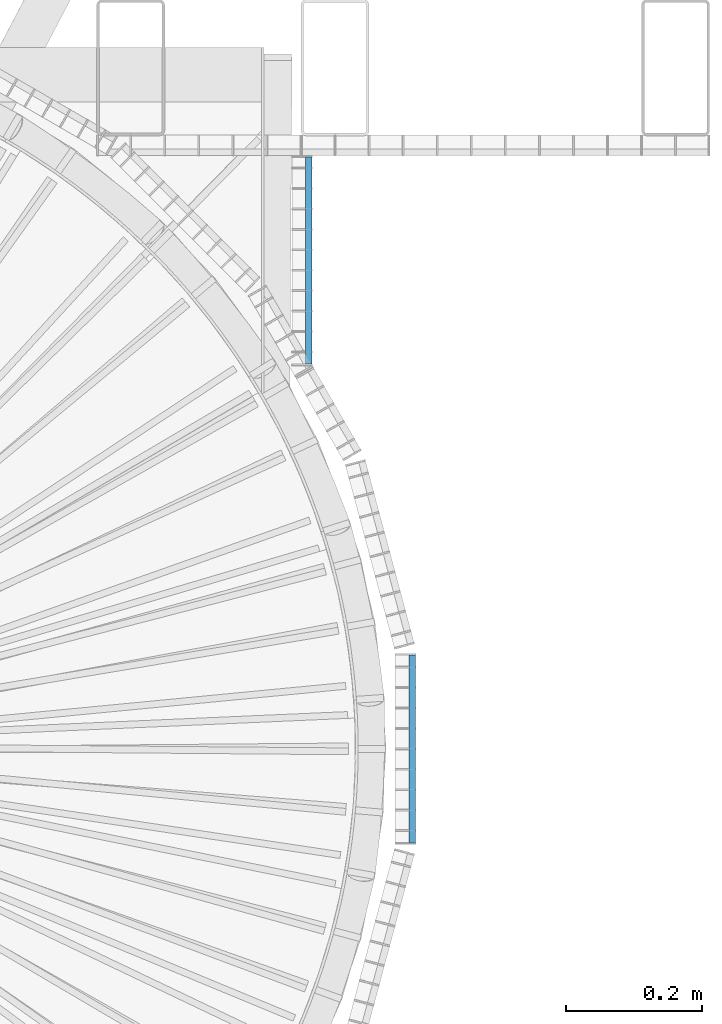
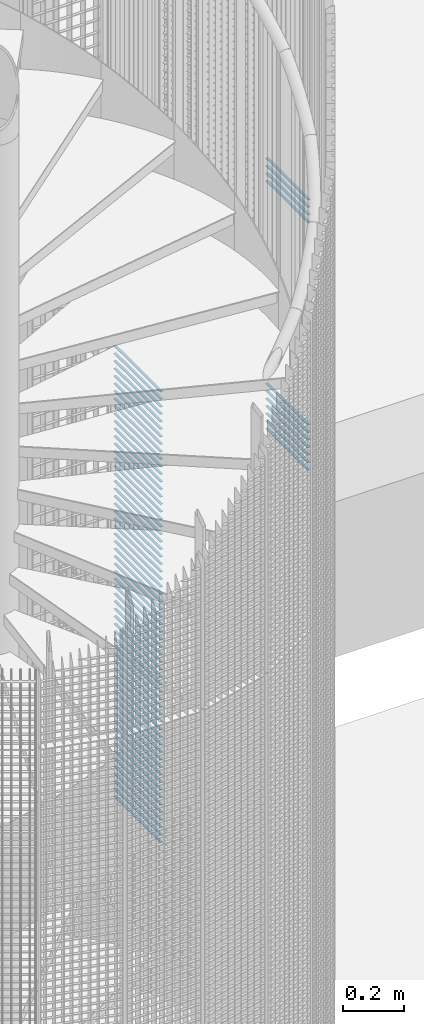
# One storey, part 273 of 1148: 72 beams, 2 elements without a shape of their own.
"""IFC2X3 building model written with IfcOpenShell, lengths in millimetres."""

from ifc_helpers import new_model, si_unit, frame, origin_with_axes, origin_2d_with_axis, place, context, subcontext, project, spatial, rectangle, extrude, material, type_object, element, aggregate, save


model = new_model("IFC2X3")

# Units and contexts
model_context = context("Model", 3, precision=1e-05, world=origin_with_axes())
body_context = subcontext(model_context, "Body", "Model", "MODEL_VIEW")
ifc_project = project(units=[si_unit("LENGTHUNIT", "METRE", prefix="MILLI"), si_unit("AREAUNIT", "SQUARE_METRE"), si_unit("VOLUMEUNIT", "CUBIC_METRE"), si_unit("MASSUNIT", "GRAM", prefix="KILO"), si_unit("TIMEUNIT", "SECOND"), si_unit("PLANEANGLEUNIT", "RADIAN"), si_unit("SOLIDANGLEUNIT", "STERADIAN"), si_unit("THERMODYNAMICTEMPERATUREUNIT", "DEGREE_CELSIUS"), si_unit("LUMINOUSINTENSITYUNIT", "LUMEN")], contexts=[model_context])

# Site, building, storey
site_placement = place(None, origin_with_axes())
site = spatial("IfcSite", under=ifc_project, at=site_placement, Name="Undefined", CompositionType="ELEMENT")
building_placement = place(site_placement, origin_with_axes())
building = spatial("IfcBuilding", under=site, at=building_placement, Name="Undefined", CompositionType="ELEMENT")
storey_placement = place(building_placement, origin_with_axes())
storey = spatial("IfcBuildingStorey", under=building, at=storey_placement, Name="Undefined", CompositionType="ELEMENT", Elevation=0.0)

# Assembly, beams
assembly_1_placement = place(storey_placement, origin_with_axes())
assembly_1 = element("IfcElementAssembly", 1, at=assembly_1_placement, inside=storey, Name="BORDURE", AssemblyPlace="NOTDEFINED", PredefinedType="NOTDEFINED")
ifc_material = material(Name="STEEL/S235JR")
beam_type = type_object("IfcBeamType", Name="PL2*10", PredefinedType="NOTDEFINED")
beam_1_placement = place(assembly_1_placement, frame((1113.47999999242, -137.996003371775, 13020.0), z_axis=(1.0, 0.0, 0.0), x_axis=(0.0, 1.0, 0.0)))
beam_1 = element("IfcBeam", 2, at=beam_1_placement, type_object=beam_type, material=ifc_material, Name="ENTRETOISE", context=body_context, shape_type="SweptSolid", body=[
    extrude(rectangle(XDim=2.0, YDim=10.0, at=origin_2d_with_axis()), frame((275.999999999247, 9.09494701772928e-13, 1.53210777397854e-14), z_axis=(-1.0, 0.0, 0.0), x_axis=(0.0, -1.0, 0.0)), (0.0, 0.0, 1.0), 276.0),
])
beam_2_placement = place(assembly_1_placement, frame((1113.47999999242, -137.996003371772, 12210.0), z_axis=(1.0, 0.0, 0.0), x_axis=(0.0, 1.0, 0.0)))
beam_2 = element("IfcBeam", 3, at=beam_2_placement, type_object=beam_type, material=ifc_material, Name="ENTRETOISE", context=body_context, shape_type="SweptSolid", body=[
    extrude(rectangle(XDim=2.0, YDim=10.0, at=origin_2d_with_axis()), frame((275.999999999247, 9.09494701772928e-13, 1.53210777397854e-14), z_axis=(-1.0, 0.0, 0.0), x_axis=(0.0, -1.0, 0.0)), (0.0, 0.0, 1.0), 276.0),
])
beam_3_placement = place(assembly_1_placement, frame((1113.47999999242, -137.996003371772, 12180.0), z_axis=(1.0, 0.0, 0.0), x_axis=(0.0, 1.0, 0.0)))
beam_3 = element("IfcBeam", 4, at=beam_3_placement, type_object=beam_type, material=ifc_material, Name="ENTRETOISE", context=body_context, shape_type="SweptSolid", body=[
    extrude(rectangle(XDim=2.0, YDim=10.0, at=origin_2d_with_axis()), frame((275.999999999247, 9.09494701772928e-13, 1.53210777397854e-14), z_axis=(-1.0, 0.0, 0.0), x_axis=(0.0, -1.0, 0.0)), (0.0, 0.0, 1.0), 276.0),
])
beam_4_placement = place(assembly_1_placement, frame((1113.47999999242, -137.996003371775, 13050.0), z_axis=(1.0, 0.0, 0.0), x_axis=(0.0, 1.0, 0.0)))
beam_4 = element("IfcBeam", 5, at=beam_4_placement, type_object=beam_type, material=ifc_material, Name="ENTRETOISE", context=body_context, shape_type="SweptSolid", body=[
    extrude(rectangle(XDim=2.0, YDim=10.0, at=origin_2d_with_axis()), frame((275.999999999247, 9.09494701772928e-13, 1.53210777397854e-14), z_axis=(-1.0, 0.0, 0.0), x_axis=(0.0, -1.0, 0.0)), (0.0, 0.0, 1.0), 276.0),
])
beam_5_placement = place(assembly_1_placement, frame((1113.47999999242, -137.996003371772, 12150.0), z_axis=(1.0, 0.0, 0.0), x_axis=(0.0, 1.0, 0.0)))
beam_5 = element("IfcBeam", 6, at=beam_5_placement, type_object=beam_type, material=ifc_material, Name="ENTRETOISE", context=body_context, shape_type="SweptSolid", body=[
    extrude(rectangle(XDim=2.0, YDim=10.0, at=origin_2d_with_axis()), frame((275.999999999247, 9.09494701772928e-13, 1.53210777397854e-14), z_axis=(-1.0, 0.0, 0.0), x_axis=(0.0, -1.0, 0.0)), (0.0, 0.0, 1.0), 276.0),
])
beam_6_placement = place(assembly_1_placement, frame((1113.47999999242, -137.996003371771, 12120.0), z_axis=(1.0, 0.0, 0.0), x_axis=(0.0, 1.0, 0.0)))
beam_6 = element("IfcBeam", 7, at=beam_6_placement, type_object=beam_type, material=ifc_material, Name="ENTRETOISE", context=body_context, shape_type="SweptSolid", body=[
    extrude(rectangle(XDim=2.0, YDim=10.0, at=origin_2d_with_axis()), frame((275.999999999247, 9.09494701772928e-13, 1.53210777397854e-14), z_axis=(-1.0, 0.0, 0.0), x_axis=(0.0, -1.0, 0.0)), (0.0, 0.0, 1.0), 276.0),
])
beam_7_placement = place(assembly_1_placement, frame((1113.47999999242, -137.996003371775, 13080.0), z_axis=(1.0, 0.0, 0.0), x_axis=(0.0, 1.0, 0.0)))
beam_7 = element("IfcBeam", 8, at=beam_7_placement, type_object=beam_type, material=ifc_material, Name="ENTRETOISE", context=body_context, shape_type="SweptSolid", body=[
    extrude(rectangle(XDim=2.0, YDim=10.0, at=origin_2d_with_axis()), frame((275.999999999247, 9.09494701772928e-13, 1.53210777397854e-14), z_axis=(-1.0, 0.0, 0.0), x_axis=(0.0, -1.0, 0.0)), (0.0, 0.0, 1.0), 276.0),
])
beam_8_placement = place(assembly_1_placement, frame((1113.47999999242, -137.996003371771, 12090.0), z_axis=(1.0, 0.0, 0.0), x_axis=(0.0, 1.0, 0.0)))
beam_8 = element("IfcBeam", 9, at=beam_8_placement, type_object=beam_type, material=ifc_material, Name="ENTRETOISE", context=body_context, shape_type="SweptSolid", body=[
    extrude(rectangle(XDim=2.0, YDim=10.0, at=origin_2d_with_axis()), frame((275.999999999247, 9.09494701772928e-13, 1.53210777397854e-14), z_axis=(-1.0, 0.0, 0.0), x_axis=(0.0, -1.0, 0.0)), (0.0, 0.0, 1.0), 276.0),
])
beam_9_placement = place(assembly_1_placement, frame((1113.47999999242, -137.996003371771, 12060.0), z_axis=(1.0, 0.0, 0.0), x_axis=(0.0, 1.0, 0.0)))
beam_9 = element("IfcBeam", 10, at=beam_9_placement, type_object=beam_type, material=ifc_material, Name="ENTRETOISE", context=body_context, shape_type="SweptSolid", body=[
    extrude(rectangle(XDim=2.0, YDim=10.0, at=origin_2d_with_axis()), frame((275.999999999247, 9.09494701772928e-13, 1.53210777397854e-14), z_axis=(-1.0, 0.0, 0.0), x_axis=(0.0, -1.0, 0.0)), (0.0, 0.0, 1.0), 276.0),
])
beam_10_placement = place(assembly_1_placement, frame((1113.47999999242, -137.996003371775, 13110.0), z_axis=(1.0, 0.0, 0.0), x_axis=(0.0, 1.0, 0.0)))
beam_10 = element("IfcBeam", 11, at=beam_10_placement, type_object=beam_type, material=ifc_material, Name="ENTRETOISE", context=body_context, shape_type="SweptSolid", body=[
    extrude(rectangle(XDim=2.0, YDim=10.0, at=origin_2d_with_axis()), frame((275.999999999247, 9.09494701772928e-13, 1.53210777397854e-14), z_axis=(-1.0, 0.0, 0.0), x_axis=(0.0, -1.0, 0.0)), (0.0, 0.0, 1.0), 276.0),
])
beam_11_placement = place(assembly_1_placement, frame((1113.47999999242, -137.99600337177, 12030.0), z_axis=(1.0, 0.0, 0.0), x_axis=(0.0, 1.0, 0.0)))
beam_11 = element("IfcBeam", 12, at=beam_11_placement, type_object=beam_type, material=ifc_material, Name="ENTRETOISE", context=body_context, shape_type="SweptSolid", body=[
    extrude(rectangle(XDim=2.0, YDim=10.0, at=origin_2d_with_axis()), frame((275.999999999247, 9.09494701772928e-13, 1.53210777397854e-14), z_axis=(-1.0, 0.0, 0.0), x_axis=(0.0, -1.0, 0.0)), (0.0, 0.0, 1.0), 276.0),
])
aggregate(assembly_1, [beam_1, beam_2, beam_3, beam_4, beam_5, beam_6, beam_7, beam_8, beam_9, beam_10, beam_11])

assembly_2_placement = place(storey_placement, origin_with_axes())
assembly_2 = element("IfcElementAssembly", 13, at=assembly_2_placement, inside=storey, Name="BORDURE", AssemblyPlace="NOTDEFINED", PredefinedType="NOTDEFINED")
beam_12_placement = place(assembly_2_placement, frame((961.586915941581, 564.78266928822, 11970.0), z_axis=(1.0, 0.0, 0.0), x_axis=(0.0, 1.0, 0.0)))
beam_12 = element("IfcBeam", 14, at=beam_12_placement, type_object=beam_type, material=ifc_material, Name="ENTRETOISE", context=body_context, shape_type="SweptSolid", body=[
    extrude(rectangle(XDim=2.0, YDim=10.0, at=origin_2d_with_axis()), frame((303.999999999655, 0.0, 0.0), z_axis=(-1.0, 0.0, 0.0), x_axis=(0.0, -1.0, 0.0)), (0.0, 0.0, 1.0), 304.0),
])
beam_13_placement = place(assembly_2_placement, frame((961.586915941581, 564.78266928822, 11940.0), z_axis=(1.0, 0.0, 0.0), x_axis=(0.0, 1.0, 0.0)))
beam_13 = element("IfcBeam", 15, at=beam_13_placement, type_object=beam_type, material=ifc_material, Name="ENTRETOISE", context=body_context, shape_type="SweptSolid", body=[
    extrude(rectangle(XDim=2.0, YDim=10.0, at=origin_2d_with_axis()), frame((303.999999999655, 0.0, 0.0), z_axis=(-1.0, 0.0, 0.0), x_axis=(0.0, -1.0, 0.0)), (0.0, 0.0, 1.0), 304.0),
])
beam_14_placement = place(assembly_2_placement, frame((961.586915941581, 564.78266928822, 11910.0), z_axis=(1.0, 0.0, 0.0), x_axis=(0.0, 1.0, 0.0)))
beam_14 = element("IfcBeam", 16, at=beam_14_placement, type_object=beam_type, material=ifc_material, Name="ENTRETOISE", context=body_context, shape_type="SweptSolid", body=[
    extrude(rectangle(XDim=2.0, YDim=10.0, at=origin_2d_with_axis()), frame((303.999999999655, 0.0, 0.0), z_axis=(-1.0, 0.0, 0.0), x_axis=(0.0, -1.0, 0.0)), (0.0, 0.0, 1.0), 304.0),
])
beam_15_placement = place(assembly_2_placement, frame((961.586915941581, 564.782669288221, 11880.0), z_axis=(1.0, 0.0, 0.0), x_axis=(0.0, 1.0, 0.0)))
beam_15 = element("IfcBeam", 17, at=beam_15_placement, type_object=beam_type, material=ifc_material, Name="ENTRETOISE", context=body_context, shape_type="SweptSolid", body=[
    extrude(rectangle(XDim=2.0, YDim=10.0, at=origin_2d_with_axis()), frame((303.999999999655, 0.0, 0.0), z_axis=(-1.0, 0.0, 0.0), x_axis=(0.0, -1.0, 0.0)), (0.0, 0.0, 1.0), 304.0),
])
beam_16_placement = place(assembly_2_placement, frame((961.586915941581, 564.78266928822, 11850.0), z_axis=(1.0, 0.0, 0.0), x_axis=(0.0, 1.0, 0.0)))
beam_16 = element("IfcBeam", 18, at=beam_16_placement, type_object=beam_type, material=ifc_material, Name="ENTRETOISE", context=body_context, shape_type="SweptSolid", body=[
    extrude(rectangle(XDim=2.0, YDim=10.0, at=origin_2d_with_axis()), frame((303.999999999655, 0.0, 0.0), z_axis=(-1.0, 0.0, 0.0), x_axis=(0.0, -1.0, 0.0)), (0.0, 0.0, 1.0), 304.0),
])
beam_17_placement = place(assembly_2_placement, frame((961.586915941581, 564.78266928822, 11820.0), z_axis=(1.0, 0.0, 0.0), x_axis=(0.0, 1.0, 0.0)))
beam_17 = element("IfcBeam", 19, at=beam_17_placement, type_object=beam_type, material=ifc_material, Name="ENTRETOISE", context=body_context, shape_type="SweptSolid", body=[
    extrude(rectangle(XDim=2.0, YDim=10.0, at=origin_2d_with_axis()), frame((303.999999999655, 0.0, 0.0), z_axis=(-1.0, 0.0, 0.0), x_axis=(0.0, -1.0, 0.0)), (0.0, 0.0, 1.0), 304.0),
])
beam_18_placement = place(assembly_2_placement, frame((961.586915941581, 564.782669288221, 11790.0), z_axis=(1.0, 0.0, 0.0), x_axis=(0.0, 1.0, 0.0)))
beam_18 = element("IfcBeam", 20, at=beam_18_placement, type_object=beam_type, material=ifc_material, Name="ENTRETOISE", context=body_context, shape_type="SweptSolid", body=[
    extrude(rectangle(XDim=2.0, YDim=10.0, at=origin_2d_with_axis()), frame((303.999999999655, 0.0, 0.0), z_axis=(-1.0, 0.0, 0.0), x_axis=(0.0, -1.0, 0.0)), (0.0, 0.0, 1.0), 304.0),
])
beam_19_placement = place(assembly_2_placement, frame((961.586915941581, 564.782669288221, 11760.0), z_axis=(1.0, 0.0, 0.0), x_axis=(0.0, 1.0, 0.0)))
beam_19 = element("IfcBeam", 21, at=beam_19_placement, type_object=beam_type, material=ifc_material, Name="ENTRETOISE", context=body_context, shape_type="SweptSolid", body=[
    extrude(rectangle(XDim=2.0, YDim=10.0, at=origin_2d_with_axis()), frame((303.999999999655, 0.0, 0.0), z_axis=(-1.0, 0.0, 0.0), x_axis=(0.0, -1.0, 0.0)), (0.0, 0.0, 1.0), 304.0),
])
beam_20_placement = place(assembly_2_placement, frame((961.586915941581, 564.782669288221, 11730.0), z_axis=(1.0, 0.0, 0.0), x_axis=(0.0, 1.0, 0.0)))
beam_20 = element("IfcBeam", 22, at=beam_20_placement, type_object=beam_type, material=ifc_material, Name="ENTRETOISE", context=body_context, shape_type="SweptSolid", body=[
    extrude(rectangle(XDim=2.0, YDim=10.0, at=origin_2d_with_axis()), frame((303.999999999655, 0.0, 0.0), z_axis=(-1.0, 0.0, 0.0), x_axis=(0.0, -1.0, 0.0)), (0.0, 0.0, 1.0), 304.0),
])
beam_21_placement = place(assembly_2_placement, frame((961.586915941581, 564.782669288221, 11700.0), z_axis=(1.0, 0.0, 0.0), x_axis=(0.0, 1.0, 0.0)))
beam_21 = element("IfcBeam", 23, at=beam_21_placement, type_object=beam_type, material=ifc_material, Name="ENTRETOISE", context=body_context, shape_type="SweptSolid", body=[
    extrude(rectangle(XDim=2.0, YDim=10.0, at=origin_2d_with_axis()), frame((303.999999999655, 0.0, 0.0), z_axis=(-1.0, 0.0, 0.0), x_axis=(0.0, -1.0, 0.0)), (0.0, 0.0, 1.0), 304.0),
])
beam_22_placement = place(assembly_2_placement, frame((961.586915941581, 564.782669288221, 11670.0), z_axis=(1.0, 0.0, 0.0), x_axis=(0.0, 1.0, 0.0)))
beam_22 = element("IfcBeam", 24, at=beam_22_placement, type_object=beam_type, material=ifc_material, Name="ENTRETOISE", context=body_context, shape_type="SweptSolid", body=[
    extrude(rectangle(XDim=2.0, YDim=10.0, at=origin_2d_with_axis()), frame((303.999999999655, 0.0, 0.0), z_axis=(-1.0, 0.0, 0.0), x_axis=(0.0, -1.0, 0.0)), (0.0, 0.0, 1.0), 304.0),
])
beam_23_placement = place(assembly_2_placement, frame((961.586915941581, 564.782669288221, 11640.0), z_axis=(1.0, 0.0, 0.0), x_axis=(0.0, 1.0, 0.0)))
beam_23 = element("IfcBeam", 25, at=beam_23_placement, type_object=beam_type, material=ifc_material, Name="ENTRETOISE", context=body_context, shape_type="SweptSolid", body=[
    extrude(rectangle(XDim=2.0, YDim=10.0, at=origin_2d_with_axis()), frame((303.999999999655, 0.0, 0.0), z_axis=(-1.0, 0.0, 0.0), x_axis=(0.0, -1.0, 0.0)), (0.0, 0.0, 1.0), 304.0),
])
beam_24_placement = place(assembly_2_placement, frame((961.586915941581, 564.782669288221, 11610.0), z_axis=(1.0, 0.0, 0.0), x_axis=(0.0, 1.0, 0.0)))
beam_24 = element("IfcBeam", 26, at=beam_24_placement, type_object=beam_type, material=ifc_material, Name="ENTRETOISE", context=body_context, shape_type="SweptSolid", body=[
    extrude(rectangle(XDim=2.0, YDim=10.0, at=origin_2d_with_axis()), frame((303.999999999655, 0.0, 0.0), z_axis=(-1.0, 0.0, 0.0), x_axis=(0.0, -1.0, 0.0)), (0.0, 0.0, 1.0), 304.0),
])
beam_25_placement = place(assembly_2_placement, frame((961.586915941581, 564.782669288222, 11580.0), z_axis=(1.0, 0.0, 0.0), x_axis=(0.0, 1.0, 0.0)))
beam_25 = element("IfcBeam", 27, at=beam_25_placement, type_object=beam_type, material=ifc_material, Name="ENTRETOISE", context=body_context, shape_type="SweptSolid", body=[
    extrude(rectangle(XDim=2.0, YDim=10.0, at=origin_2d_with_axis()), frame((303.999999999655, 0.0, 0.0), z_axis=(-1.0, 0.0, 0.0), x_axis=(0.0, -1.0, 0.0)), (0.0, 0.0, 1.0), 304.0),
])
beam_26_placement = place(assembly_2_placement, frame((961.586915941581, 564.782669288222, 11550.0), z_axis=(1.0, 0.0, 0.0), x_axis=(0.0, 1.0, 0.0)))
beam_26 = element("IfcBeam", 28, at=beam_26_placement, type_object=beam_type, material=ifc_material, Name="ENTRETOISE", context=body_context, shape_type="SweptSolid", body=[
    extrude(rectangle(XDim=2.0, YDim=10.0, at=origin_2d_with_axis()), frame((303.999999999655, 0.0, 0.0), z_axis=(-1.0, 0.0, 0.0), x_axis=(0.0, -1.0, 0.0)), (0.0, 0.0, 1.0), 304.0),
])
beam_27_placement = place(assembly_2_placement, frame((961.586915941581, 564.782669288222, 11520.0), z_axis=(1.0, 0.0, 0.0), x_axis=(0.0, 1.0, 0.0)))
beam_27 = element("IfcBeam", 29, at=beam_27_placement, type_object=beam_type, material=ifc_material, Name="ENTRETOISE", context=body_context, shape_type="SweptSolid", body=[
    extrude(rectangle(XDim=2.0, YDim=10.0, at=origin_2d_with_axis()), frame((303.999999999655, 0.0, 0.0), z_axis=(-1.0, 0.0, 0.0), x_axis=(0.0, -1.0, 0.0)), (0.0, 0.0, 1.0), 304.0),
])
beam_28_placement = place(assembly_2_placement, frame((961.586915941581, 564.782669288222, 11490.0), z_axis=(1.0, 0.0, 0.0), x_axis=(0.0, 1.0, 0.0)))
beam_28 = element("IfcBeam", 30, at=beam_28_placement, type_object=beam_type, material=ifc_material, Name="ENTRETOISE", context=body_context, shape_type="SweptSolid", body=[
    extrude(rectangle(XDim=2.0, YDim=10.0, at=origin_2d_with_axis()), frame((303.999999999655, 0.0, 0.0), z_axis=(-1.0, 0.0, 0.0), x_axis=(0.0, -1.0, 0.0)), (0.0, 0.0, 1.0), 304.0),
])
beam_29_placement = place(assembly_2_placement, frame((961.586915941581, 564.782669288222, 11460.0), z_axis=(1.0, 0.0, 0.0), x_axis=(0.0, 1.0, 0.0)))
beam_29 = element("IfcBeam", 31, at=beam_29_placement, type_object=beam_type, material=ifc_material, Name="ENTRETOISE", context=body_context, shape_type="SweptSolid", body=[
    extrude(rectangle(XDim=2.0, YDim=10.0, at=origin_2d_with_axis()), frame((303.999999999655, 0.0, 0.0), z_axis=(-1.0, 0.0, 0.0), x_axis=(0.0, -1.0, 0.0)), (0.0, 0.0, 1.0), 304.0),
])
beam_30_placement = place(assembly_2_placement, frame((961.586915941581, 564.782669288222, 11430.0), z_axis=(1.0, 0.0, 0.0), x_axis=(0.0, 1.0, 0.0)))
beam_30 = element("IfcBeam", 32, at=beam_30_placement, type_object=beam_type, material=ifc_material, Name="ENTRETOISE", context=body_context, shape_type="SweptSolid", body=[
    extrude(rectangle(XDim=2.0, YDim=10.0, at=origin_2d_with_axis()), frame((303.999999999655, 0.0, 0.0), z_axis=(-1.0, 0.0, 0.0), x_axis=(0.0, -1.0, 0.0)), (0.0, 0.0, 1.0), 304.0),
])
beam_31_placement = place(assembly_2_placement, frame((961.586915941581, 564.782669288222, 11400.0), z_axis=(1.0, 0.0, 0.0), x_axis=(0.0, 1.0, 0.0)))
beam_31 = element("IfcBeam", 33, at=beam_31_placement, type_object=beam_type, material=ifc_material, Name="ENTRETOISE", context=body_context, shape_type="SweptSolid", body=[
    extrude(rectangle(XDim=2.0, YDim=10.0, at=origin_2d_with_axis()), frame((303.999999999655, 0.0, 0.0), z_axis=(-1.0, 0.0, 0.0), x_axis=(0.0, -1.0, 0.0)), (0.0, 0.0, 1.0), 304.0),
])
beam_32_placement = place(assembly_2_placement, frame((961.586915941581, 564.782669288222, 11370.0), z_axis=(1.0, 0.0, 0.0), x_axis=(0.0, 1.0, 0.0)))
beam_32 = element("IfcBeam", 34, at=beam_32_placement, type_object=beam_type, material=ifc_material, Name="ENTRETOISE", context=body_context, shape_type="SweptSolid", body=[
    extrude(rectangle(XDim=2.0, YDim=10.0, at=origin_2d_with_axis()), frame((303.999999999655, 0.0, 0.0), z_axis=(-1.0, 0.0, 0.0), x_axis=(0.0, -1.0, 0.0)), (0.0, 0.0, 1.0), 304.0),
])
beam_33_placement = place(assembly_2_placement, frame((961.586915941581, 564.782669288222, 11340.0), z_axis=(1.0, 0.0, 0.0), x_axis=(0.0, 1.0, 0.0)))
beam_33 = element("IfcBeam", 35, at=beam_33_placement, type_object=beam_type, material=ifc_material, Name="ENTRETOISE", context=body_context, shape_type="SweptSolid", body=[
    extrude(rectangle(XDim=2.0, YDim=10.0, at=origin_2d_with_axis()), frame((303.999999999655, 0.0, 0.0), z_axis=(-1.0, 0.0, 0.0), x_axis=(0.0, -1.0, 0.0)), (0.0, 0.0, 1.0), 304.0),
])
beam_34_placement = place(assembly_2_placement, frame((961.586915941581, 564.782669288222, 11310.0), z_axis=(1.0, 0.0, 0.0), x_axis=(0.0, 1.0, 0.0)))
beam_34 = element("IfcBeam", 36, at=beam_34_placement, type_object=beam_type, material=ifc_material, Name="ENTRETOISE", context=body_context, shape_type="SweptSolid", body=[
    extrude(rectangle(XDim=2.0, YDim=10.0, at=origin_2d_with_axis()), frame((303.999999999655, 0.0, 0.0), z_axis=(-1.0, 0.0, 0.0), x_axis=(0.0, -1.0, 0.0)), (0.0, 0.0, 1.0), 304.0),
])
beam_35_placement = place(assembly_2_placement, frame((961.586915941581, 564.782669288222, 11280.0), z_axis=(1.0, 0.0, 0.0), x_axis=(0.0, 1.0, 0.0)))
beam_35 = element("IfcBeam", 37, at=beam_35_placement, type_object=beam_type, material=ifc_material, Name="ENTRETOISE", context=body_context, shape_type="SweptSolid", body=[
    extrude(rectangle(XDim=2.0, YDim=10.0, at=origin_2d_with_axis()), frame((303.999999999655, 0.0, 0.0), z_axis=(-1.0, 0.0, 0.0), x_axis=(0.0, -1.0, 0.0)), (0.0, 0.0, 1.0), 304.0),
])
beam_36_placement = place(assembly_2_placement, frame((961.586915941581, 564.782669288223, 11250.0), z_axis=(1.0, 0.0, 0.0), x_axis=(0.0, 1.0, 0.0)))
beam_36 = element("IfcBeam", 38, at=beam_36_placement, type_object=beam_type, material=ifc_material, Name="ENTRETOISE", context=body_context, shape_type="SweptSolid", body=[
    extrude(rectangle(XDim=2.0, YDim=10.0, at=origin_2d_with_axis()), frame((303.999999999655, 0.0, 0.0), z_axis=(-1.0, 0.0, 0.0), x_axis=(0.0, -1.0, 0.0)), (0.0, 0.0, 1.0), 304.0),
])
beam_37_placement = place(assembly_2_placement, frame((961.586915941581, 564.782669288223, 11220.0), z_axis=(1.0, 0.0, 0.0), x_axis=(0.0, 1.0, 0.0)))
beam_37 = element("IfcBeam", 39, at=beam_37_placement, type_object=beam_type, material=ifc_material, Name="ENTRETOISE", context=body_context, shape_type="SweptSolid", body=[
    extrude(rectangle(XDim=2.0, YDim=10.0, at=origin_2d_with_axis()), frame((303.999999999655, 0.0, 0.0), z_axis=(-1.0, 0.0, 0.0), x_axis=(0.0, -1.0, 0.0)), (0.0, 0.0, 1.0), 304.0),
])
beam_38_placement = place(assembly_2_placement, frame((961.586915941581, 564.782669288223, 11190.0), z_axis=(1.0, 0.0, 0.0), x_axis=(0.0, 1.0, 0.0)))
beam_38 = element("IfcBeam", 40, at=beam_38_placement, type_object=beam_type, material=ifc_material, Name="ENTRETOISE", context=body_context, shape_type="SweptSolid", body=[
    extrude(rectangle(XDim=2.0, YDim=10.0, at=origin_2d_with_axis()), frame((303.999999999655, 0.0, 0.0), z_axis=(-1.0, 0.0, 0.0), x_axis=(0.0, -1.0, 0.0)), (0.0, 0.0, 1.0), 304.0),
])
beam_39_placement = place(assembly_2_placement, frame((961.586915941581, 564.782669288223, 11160.0), z_axis=(1.0, 0.0, 0.0), x_axis=(0.0, 1.0, 0.0)))
beam_39 = element("IfcBeam", 41, at=beam_39_placement, type_object=beam_type, material=ifc_material, Name="ENTRETOISE", context=body_context, shape_type="SweptSolid", body=[
    extrude(rectangle(XDim=2.0, YDim=10.0, at=origin_2d_with_axis()), frame((303.999999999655, 0.0, 0.0), z_axis=(-1.0, 0.0, 0.0), x_axis=(0.0, -1.0, 0.0)), (0.0, 0.0, 1.0), 304.0),
])
beam_40_placement = place(assembly_2_placement, frame((961.586915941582, 564.782669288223, 11130.0), z_axis=(1.0, 0.0, 0.0), x_axis=(0.0, 1.0, 0.0)))
beam_40 = element("IfcBeam", 42, at=beam_40_placement, type_object=beam_type, material=ifc_material, Name="ENTRETOISE", context=body_context, shape_type="SweptSolid", body=[
    extrude(rectangle(XDim=2.0, YDim=10.0, at=origin_2d_with_axis()), frame((303.999999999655, 0.0, 0.0), z_axis=(-1.0, 0.0, 0.0), x_axis=(0.0, -1.0, 0.0)), (0.0, 0.0, 1.0), 304.0),
])
beam_41_placement = place(assembly_2_placement, frame((961.586915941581, 564.782669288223, 11100.0), z_axis=(1.0, 0.0, 0.0), x_axis=(0.0, 1.0, 0.0)))
beam_41 = element("IfcBeam", 43, at=beam_41_placement, type_object=beam_type, material=ifc_material, Name="ENTRETOISE", context=body_context, shape_type="SweptSolid", body=[
    extrude(rectangle(XDim=2.0, YDim=10.0, at=origin_2d_with_axis()), frame((303.999999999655, 0.0, 0.0), z_axis=(-1.0, 0.0, 0.0), x_axis=(0.0, -1.0, 0.0)), (0.0, 0.0, 1.0), 304.0),
])
beam_42_placement = place(assembly_2_placement, frame((961.586915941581, 564.782669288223, 11070.0), z_axis=(1.0, 0.0, 0.0), x_axis=(0.0, 1.0, 0.0)))
beam_42 = element("IfcBeam", 44, at=beam_42_placement, type_object=beam_type, material=ifc_material, Name="ENTRETOISE", context=body_context, shape_type="SweptSolid", body=[
    extrude(rectangle(XDim=2.0, YDim=10.0, at=origin_2d_with_axis()), frame((303.999999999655, 0.0, 0.0), z_axis=(-1.0, 0.0, 0.0), x_axis=(0.0, -1.0, 0.0)), (0.0, 0.0, 1.0), 304.0),
])
beam_43_placement = place(assembly_2_placement, frame((961.586915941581, 564.782669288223, 11040.0), z_axis=(1.0, 0.0, 0.0), x_axis=(0.0, 1.0, 0.0)))
beam_43 = element("IfcBeam", 45, at=beam_43_placement, type_object=beam_type, material=ifc_material, Name="ENTRETOISE", context=body_context, shape_type="SweptSolid", body=[
    extrude(rectangle(XDim=2.0, YDim=10.0, at=origin_2d_with_axis()), frame((303.999999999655, 0.0, 0.0), z_axis=(-1.0, 0.0, 0.0), x_axis=(0.0, -1.0, 0.0)), (0.0, 0.0, 1.0), 304.0),
])
beam_44_placement = place(assembly_2_placement, frame((961.586915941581, 564.782669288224, 11010.0), z_axis=(1.0, 0.0, 0.0), x_axis=(0.0, 1.0, 0.0)))
beam_44 = element("IfcBeam", 46, at=beam_44_placement, type_object=beam_type, material=ifc_material, Name="ENTRETOISE", context=body_context, shape_type="SweptSolid", body=[
    extrude(rectangle(XDim=2.0, YDim=10.0, at=origin_2d_with_axis()), frame((303.999999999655, 0.0, 0.0), z_axis=(-1.0, 0.0, 0.0), x_axis=(0.0, -1.0, 0.0)), (0.0, 0.0, 1.0), 304.0),
])
beam_45_placement = place(assembly_2_placement, frame((961.586915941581, 564.782669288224, 10980.0), z_axis=(1.0, 0.0, 0.0), x_axis=(0.0, 1.0, 0.0)))
beam_45 = element("IfcBeam", 47, at=beam_45_placement, type_object=beam_type, material=ifc_material, Name="ENTRETOISE", context=body_context, shape_type="SweptSolid", body=[
    extrude(rectangle(XDim=2.0, YDim=10.0, at=origin_2d_with_axis()), frame((303.999999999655, 0.0, 0.0), z_axis=(-1.0, 0.0, 0.0), x_axis=(0.0, -1.0, 0.0)), (0.0, 0.0, 1.0), 304.0),
])
beam_46_placement = place(assembly_2_placement, frame((961.586915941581, 564.782669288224, 10950.0), z_axis=(1.0, 0.0, 0.0), x_axis=(0.0, 1.0, 0.0)))
beam_46 = element("IfcBeam", 48, at=beam_46_placement, type_object=beam_type, material=ifc_material, Name="ENTRETOISE", context=body_context, shape_type="SweptSolid", body=[
    extrude(rectangle(XDim=2.0, YDim=10.0, at=origin_2d_with_axis()), frame((303.999999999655, 0.0, 0.0), z_axis=(-1.0, 0.0, 0.0), x_axis=(0.0, -1.0, 0.0)), (0.0, 0.0, 1.0), 304.0),
])
beam_47_placement = place(assembly_2_placement, frame((961.586915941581, 564.782669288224, 10920.0), z_axis=(1.0, 0.0, 0.0), x_axis=(0.0, 1.0, 0.0)))
beam_47 = element("IfcBeam", 49, at=beam_47_placement, type_object=beam_type, material=ifc_material, Name="ENTRETOISE", context=body_context, shape_type="SweptSolid", body=[
    extrude(rectangle(XDim=2.0, YDim=10.0, at=origin_2d_with_axis()), frame((303.999999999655, 0.0, 0.0), z_axis=(-1.0, 0.0, 0.0), x_axis=(0.0, -1.0, 0.0)), (0.0, 0.0, 1.0), 304.0),
])
beam_48_placement = place(assembly_2_placement, frame((961.586915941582, 564.782669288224, 10890.0), z_axis=(1.0, 0.0, 0.0), x_axis=(0.0, 1.0, 0.0)))
beam_48 = element("IfcBeam", 50, at=beam_48_placement, type_object=beam_type, material=ifc_material, Name="ENTRETOISE", context=body_context, shape_type="SweptSolid", body=[
    extrude(rectangle(XDim=2.0, YDim=10.0, at=origin_2d_with_axis()), frame((303.999999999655, 0.0, 0.0), z_axis=(-1.0, 0.0, 0.0), x_axis=(0.0, -1.0, 0.0)), (0.0, 0.0, 1.0), 304.0),
])
beam_49_placement = place(assembly_2_placement, frame((961.586915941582, 564.782669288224, 10860.0), z_axis=(1.0, 0.0, 0.0), x_axis=(0.0, 1.0, 0.0)))
beam_49 = element("IfcBeam", 51, at=beam_49_placement, type_object=beam_type, material=ifc_material, Name="ENTRETOISE", context=body_context, shape_type="SweptSolid", body=[
    extrude(rectangle(XDim=2.0, YDim=10.0, at=origin_2d_with_axis()), frame((303.999999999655, 0.0, 0.0), z_axis=(-1.0, 0.0, 0.0), x_axis=(0.0, -1.0, 0.0)), (0.0, 0.0, 1.0), 304.0),
])
beam_50_placement = place(assembly_2_placement, frame((961.586915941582, 564.782669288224, 10830.0), z_axis=(1.0, 0.0, 0.0), x_axis=(0.0, 1.0, 0.0)))
beam_50 = element("IfcBeam", 52, at=beam_50_placement, type_object=beam_type, material=ifc_material, Name="ENTRETOISE", context=body_context, shape_type="SweptSolid", body=[
    extrude(rectangle(XDim=2.0, YDim=10.0, at=origin_2d_with_axis()), frame((303.999999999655, 0.0, 0.0), z_axis=(-1.0, 0.0, 0.0), x_axis=(0.0, -1.0, 0.0)), (0.0, 0.0, 1.0), 304.0),
])
beam_51_placement = place(assembly_2_placement, frame((961.586915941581, 564.782669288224, 10800.0), z_axis=(1.0, 0.0, 0.0), x_axis=(0.0, 1.0, 0.0)))
beam_51 = element("IfcBeam", 53, at=beam_51_placement, type_object=beam_type, material=ifc_material, Name="ENTRETOISE", context=body_context, shape_type="SweptSolid", body=[
    extrude(rectangle(XDim=2.0, YDim=10.0, at=origin_2d_with_axis()), frame((303.999999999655, 0.0, 0.0), z_axis=(-1.0, 0.0, 0.0), x_axis=(0.0, -1.0, 0.0)), (0.0, 0.0, 1.0), 304.0),
])
beam_52_placement = place(assembly_2_placement, frame((961.586915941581, 564.782669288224, 10770.0), z_axis=(1.0, 0.0, 0.0), x_axis=(0.0, 1.0, 0.0)))
beam_52 = element("IfcBeam", 54, at=beam_52_placement, type_object=beam_type, material=ifc_material, Name="ENTRETOISE", context=body_context, shape_type="SweptSolid", body=[
    extrude(rectangle(XDim=2.0, YDim=10.0, at=origin_2d_with_axis()), frame((303.999999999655, 0.0, 0.0), z_axis=(-1.0, 0.0, 0.0), x_axis=(0.0, -1.0, 0.0)), (0.0, 0.0, 1.0), 304.0),
])
beam_53_placement = place(assembly_2_placement, frame((961.586915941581, 564.782669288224, 10740.0), z_axis=(1.0, 0.0, 0.0), x_axis=(0.0, 1.0, 0.0)))
beam_53 = element("IfcBeam", 55, at=beam_53_placement, type_object=beam_type, material=ifc_material, Name="ENTRETOISE", context=body_context, shape_type="SweptSolid", body=[
    extrude(rectangle(XDim=2.0, YDim=10.0, at=origin_2d_with_axis()), frame((303.999999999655, 0.0, 0.0), z_axis=(-1.0, 0.0, 0.0), x_axis=(0.0, -1.0, 0.0)), (0.0, 0.0, 1.0), 304.0),
])
beam_54_placement = place(assembly_2_placement, frame((961.586915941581, 564.782669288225, 10710.0), z_axis=(1.0, 0.0, 0.0), x_axis=(0.0, 1.0, 0.0)))
beam_54 = element("IfcBeam", 56, at=beam_54_placement, type_object=beam_type, material=ifc_material, Name="ENTRETOISE", context=body_context, shape_type="SweptSolid", body=[
    extrude(rectangle(XDim=2.0, YDim=10.0, at=origin_2d_with_axis()), frame((303.999999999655, 0.0, 0.0), z_axis=(-1.0, 0.0, 0.0), x_axis=(0.0, -1.0, 0.0)), (0.0, 0.0, 1.0), 304.0),
])
beam_55_placement = place(assembly_2_placement, frame((961.586915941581, 564.782669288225, 10680.0), z_axis=(1.0, 0.0, 0.0), x_axis=(0.0, 1.0, 0.0)))
beam_55 = element("IfcBeam", 57, at=beam_55_placement, type_object=beam_type, material=ifc_material, Name="ENTRETOISE", context=body_context, shape_type="SweptSolid", body=[
    extrude(rectangle(XDim=2.0, YDim=10.0, at=origin_2d_with_axis()), frame((303.999999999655, 0.0, 0.0), z_axis=(-1.0, 0.0, 0.0), x_axis=(0.0, -1.0, 0.0)), (0.0, 0.0, 1.0), 304.0),
])
beam_56_placement = place(assembly_2_placement, frame((961.586915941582, 564.782669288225, 10650.0), z_axis=(1.0, 0.0, 0.0), x_axis=(0.0, 1.0, 0.0)))
beam_56 = element("IfcBeam", 58, at=beam_56_placement, type_object=beam_type, material=ifc_material, Name="ENTRETOISE", context=body_context, shape_type="SweptSolid", body=[
    extrude(rectangle(XDim=2.0, YDim=10.0, at=origin_2d_with_axis()), frame((303.999999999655, 0.0, 0.0), z_axis=(-1.0, 0.0, 0.0), x_axis=(0.0, -1.0, 0.0)), (0.0, 0.0, 1.0), 304.0),
])
beam_57_placement = place(assembly_2_placement, frame((961.586915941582, 564.782669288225, 10620.0), z_axis=(1.0, 0.0, 0.0), x_axis=(0.0, 1.0, 0.0)))
beam_57 = element("IfcBeam", 59, at=beam_57_placement, type_object=beam_type, material=ifc_material, Name="ENTRETOISE", context=body_context, shape_type="SweptSolid", body=[
    extrude(rectangle(XDim=2.0, YDim=10.0, at=origin_2d_with_axis()), frame((303.999999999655, 0.0, 0.0), z_axis=(-1.0, 0.0, 0.0), x_axis=(0.0, -1.0, 0.0)), (0.0, 0.0, 1.0), 304.0),
])
beam_58_placement = place(assembly_2_placement, frame((961.586915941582, 564.782669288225, 10590.0), z_axis=(1.0, 0.0, 0.0), x_axis=(0.0, 1.0, 0.0)))
beam_58 = element("IfcBeam", 60, at=beam_58_placement, type_object=beam_type, material=ifc_material, Name="ENTRETOISE", context=body_context, shape_type="SweptSolid", body=[
    extrude(rectangle(XDim=2.0, YDim=10.0, at=origin_2d_with_axis()), frame((303.999999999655, 0.0, 0.0), z_axis=(-1.0, 0.0, 0.0), x_axis=(0.0, -1.0, 0.0)), (0.0, 0.0, 1.0), 304.0),
])
beam_59_placement = place(assembly_2_placement, frame((961.586915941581, 564.782669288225, 10560.0), z_axis=(1.0, 0.0, 0.0), x_axis=(0.0, 1.0, 0.0)))
beam_59 = element("IfcBeam", 61, at=beam_59_placement, type_object=beam_type, material=ifc_material, Name="ENTRETOISE", context=body_context, shape_type="SweptSolid", body=[
    extrude(rectangle(XDim=2.0, YDim=10.0, at=origin_2d_with_axis()), frame((303.999999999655, 0.0, 0.0), z_axis=(-1.0, 0.0, 0.0), x_axis=(0.0, -1.0, 0.0)), (0.0, 0.0, 1.0), 304.0),
])
beam_60_placement = place(assembly_2_placement, frame((961.586915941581, 564.782669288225, 10530.0), z_axis=(1.0, 0.0, 0.0), x_axis=(0.0, 1.0, 0.0)))
beam_60 = element("IfcBeam", 62, at=beam_60_placement, type_object=beam_type, material=ifc_material, Name="ENTRETOISE", context=body_context, shape_type="SweptSolid", body=[
    extrude(rectangle(XDim=2.0, YDim=10.0, at=origin_2d_with_axis()), frame((303.999999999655, 0.0, 0.0), z_axis=(-1.0, 0.0, 0.0), x_axis=(0.0, -1.0, 0.0)), (0.0, 0.0, 1.0), 304.0),
])
beam_61_placement = place(assembly_2_placement, frame((961.586915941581, 564.782669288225, 10500.0), z_axis=(1.0, 0.0, 0.0), x_axis=(0.0, 1.0, 0.0)))
beam_61 = element("IfcBeam", 63, at=beam_61_placement, type_object=beam_type, material=ifc_material, Name="ENTRETOISE", context=body_context, shape_type="SweptSolid", body=[
    extrude(rectangle(XDim=2.0, YDim=10.0, at=origin_2d_with_axis()), frame((303.999999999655, 0.0, 0.0), z_axis=(-1.0, 0.0, 0.0), x_axis=(0.0, -1.0, 0.0)), (0.0, 0.0, 1.0), 304.0),
])
beam_62_placement = place(assembly_2_placement, frame((961.586915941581, 564.782669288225, 10470.0), z_axis=(1.0, 0.0, 0.0), x_axis=(0.0, 1.0, 0.0)))
beam_62 = element("IfcBeam", 64, at=beam_62_placement, type_object=beam_type, material=ifc_material, Name="ENTRETOISE", context=body_context, shape_type="SweptSolid", body=[
    extrude(rectangle(XDim=2.0, YDim=10.0, at=origin_2d_with_axis()), frame((303.999999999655, 0.0, 0.0), z_axis=(-1.0, 0.0, 0.0), x_axis=(0.0, -1.0, 0.0)), (0.0, 0.0, 1.0), 304.0),
])
beam_63_placement = place(assembly_2_placement, frame((961.586915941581, 564.782669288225, 10440.0), z_axis=(1.0, 0.0, 0.0), x_axis=(0.0, 1.0, 0.0)))
beam_63 = element("IfcBeam", 65, at=beam_63_placement, type_object=beam_type, material=ifc_material, Name="ENTRETOISE", context=body_context, shape_type="SweptSolid", body=[
    extrude(rectangle(XDim=2.0, YDim=10.0, at=origin_2d_with_axis()), frame((303.999999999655, 0.0, 0.0), z_axis=(-1.0, 0.0, 0.0), x_axis=(0.0, -1.0, 0.0)), (0.0, 0.0, 1.0), 304.0),
])
beam_64_placement = place(assembly_2_placement, frame((961.586915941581, 564.782669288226, 10410.0), z_axis=(1.0, 0.0, 0.0), x_axis=(0.0, 1.0, 0.0)))
beam_64 = element("IfcBeam", 66, at=beam_64_placement, type_object=beam_type, material=ifc_material, Name="ENTRETOISE", context=body_context, shape_type="SweptSolid", body=[
    extrude(rectangle(XDim=2.0, YDim=10.0, at=origin_2d_with_axis()), frame((303.999999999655, 0.0, 0.0), z_axis=(-1.0, 0.0, 0.0), x_axis=(0.0, -1.0, 0.0)), (0.0, 0.0, 1.0), 304.0),
])
beam_65_placement = place(assembly_2_placement, frame((961.586915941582, 564.782669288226, 10380.0), z_axis=(1.0, 0.0, 0.0), x_axis=(0.0, 1.0, 0.0)))
beam_65 = element("IfcBeam", 67, at=beam_65_placement, type_object=beam_type, material=ifc_material, Name="ENTRETOISE", context=body_context, shape_type="SweptSolid", body=[
    extrude(rectangle(XDim=2.0, YDim=10.0, at=origin_2d_with_axis()), frame((303.999999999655, 0.0, 0.0), z_axis=(-1.0, 0.0, 0.0), x_axis=(0.0, -1.0, 0.0)), (0.0, 0.0, 1.0), 304.0),
])
beam_66_placement = place(assembly_2_placement, frame((961.586915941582, 564.782669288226, 10350.0), z_axis=(1.0, 0.0, 0.0), x_axis=(0.0, 1.0, 0.0)))
beam_66 = element("IfcBeam", 68, at=beam_66_placement, type_object=beam_type, material=ifc_material, Name="ENTRETOISE", context=body_context, shape_type="SweptSolid", body=[
    extrude(rectangle(XDim=2.0, YDim=10.0, at=origin_2d_with_axis()), frame((303.999999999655, 0.0, 0.0), z_axis=(-1.0, 0.0, 0.0), x_axis=(0.0, -1.0, 0.0)), (0.0, 0.0, 1.0), 304.0),
])
beam_67_placement = place(assembly_2_placement, frame((961.586915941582, 564.782669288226, 10320.0), z_axis=(1.0, 0.0, 0.0), x_axis=(0.0, 1.0, 0.0)))
beam_67 = element("IfcBeam", 69, at=beam_67_placement, type_object=beam_type, material=ifc_material, Name="ENTRETOISE", context=body_context, shape_type="SweptSolid", body=[
    extrude(rectangle(XDim=2.0, YDim=10.0, at=origin_2d_with_axis()), frame((303.999999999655, 0.0, 0.0), z_axis=(-1.0, 0.0, 0.0), x_axis=(0.0, -1.0, 0.0)), (0.0, 0.0, 1.0), 304.0),
])
beam_68_placement = place(assembly_2_placement, frame((961.586915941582, 564.782669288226, 10290.0), z_axis=(1.0, 0.0, 0.0), x_axis=(0.0, 1.0, 0.0)))
beam_68 = element("IfcBeam", 70, at=beam_68_placement, type_object=beam_type, material=ifc_material, Name="ENTRETOISE", context=body_context, shape_type="SweptSolid", body=[
    extrude(rectangle(XDim=2.0, YDim=10.0, at=origin_2d_with_axis()), frame((303.999999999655, 0.0, 0.0), z_axis=(-1.0, 0.0, 0.0), x_axis=(0.0, -1.0, 0.0)), (0.0, 0.0, 1.0), 304.0),
])
beam_69_placement = place(assembly_2_placement, frame((961.586915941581, 564.782669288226, 10260.0), z_axis=(1.0, 0.0, 0.0), x_axis=(0.0, 1.0, 0.0)))
beam_69 = element("IfcBeam", 71, at=beam_69_placement, type_object=beam_type, material=ifc_material, Name="ENTRETOISE", context=body_context, shape_type="SweptSolid", body=[
    extrude(rectangle(XDim=2.0, YDim=10.0, at=origin_2d_with_axis()), frame((303.999999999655, 0.0, 0.0), z_axis=(-1.0, 0.0, 0.0), x_axis=(0.0, -1.0, 0.0)), (0.0, 0.0, 1.0), 304.0),
])
beam_70_placement = place(assembly_2_placement, frame((961.586915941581, 564.782669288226, 10230.0), z_axis=(1.0, 0.0, 0.0), x_axis=(0.0, 1.0, 0.0)))
beam_70 = element("IfcBeam", 72, at=beam_70_placement, type_object=beam_type, material=ifc_material, Name="ENTRETOISE", context=body_context, shape_type="SweptSolid", body=[
    extrude(rectangle(XDim=2.0, YDim=10.0, at=origin_2d_with_axis()), frame((303.999999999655, 0.0, 0.0), z_axis=(-1.0, 0.0, 0.0), x_axis=(0.0, -1.0, 0.0)), (0.0, 0.0, 1.0), 304.0),
])
beam_71_placement = place(assembly_2_placement, frame((961.586915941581, 564.782669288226, 10200.0), z_axis=(1.0, 0.0, 0.0), x_axis=(0.0, 1.0, 0.0)))
beam_71 = element("IfcBeam", 73, at=beam_71_placement, type_object=beam_type, material=ifc_material, Name="ENTRETOISE", context=body_context, shape_type="SweptSolid", body=[
    extrude(rectangle(XDim=2.0, YDim=10.0, at=origin_2d_with_axis()), frame((303.999999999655, 0.0, 0.0), z_axis=(-1.0, 0.0, 0.0), x_axis=(0.0, -1.0, 0.0)), (0.0, 0.0, 1.0), 304.0),
])
beam_72_placement = place(assembly_2_placement, frame((961.586915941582, 564.782669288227, 10170.0), z_axis=(1.0, 0.0, 0.0), x_axis=(0.0, 1.0, 0.0)))
beam_72 = element("IfcBeam", 74, at=beam_72_placement, type_object=beam_type, material=ifc_material, Name="ENTRETOISE", context=body_context, shape_type="SweptSolid", body=[
    extrude(rectangle(XDim=2.0, YDim=10.0, at=origin_2d_with_axis()), frame((303.999999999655, 0.0, 0.0), z_axis=(-1.0, 0.0, 0.0), x_axis=(0.0, -1.0, 0.0)), (0.0, 0.0, 1.0), 304.0),
])
aggregate(assembly_2, [beam_12, beam_13, beam_14, beam_15, beam_16, beam_17, beam_18, beam_19, beam_20, beam_21, beam_22, beam_23, beam_24, beam_25, beam_26, beam_27, beam_28, beam_29, beam_30, beam_31, beam_32, beam_33, beam_34, beam_35, beam_36, beam_37, beam_38, beam_39, beam_40, beam_41, beam_42, beam_43, beam_44, beam_45, beam_46, beam_47, beam_48, beam_49, beam_50, beam_51, beam_52, beam_53, beam_54, beam_55, beam_56, beam_57, beam_58, beam_59, beam_60, beam_61, beam_62, beam_63, beam_64, beam_65, beam_66, beam_67, beam_68, beam_69, beam_70, beam_71, beam_72])

save(model, "model.ifc")
